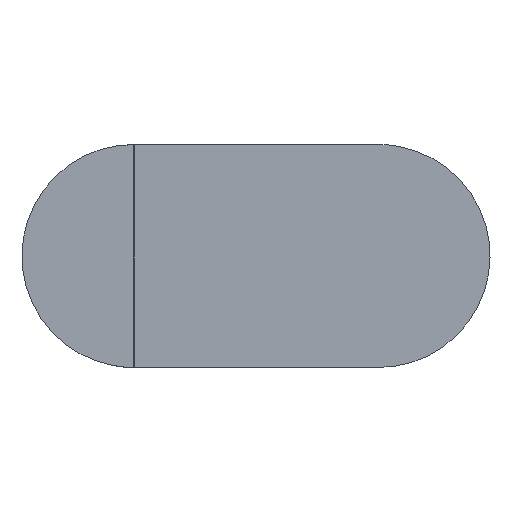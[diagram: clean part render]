
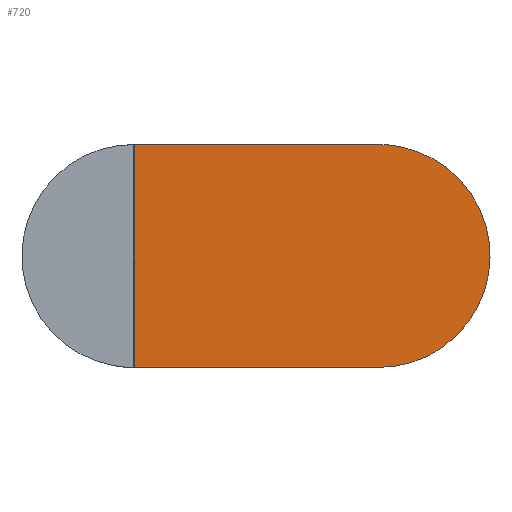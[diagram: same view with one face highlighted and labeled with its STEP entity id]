
A CAD part, top view. The second image highlights one B-rep face of the part: STEP entity #720.
In plain terms, the highlighted planar face has unit normal (0, 0, 1).
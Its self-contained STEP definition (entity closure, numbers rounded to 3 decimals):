
#720=ADVANCED_FACE('',(#1674),#13985,.T.);
#1674=FACE_OUTER_BOUND('',#2715,.T.);
#2715=EDGE_LOOP('',(#5186,#5187,#5188,#5189));
#5186=ORIENTED_EDGE('',*,*,#8268,.F.);
#5187=ORIENTED_EDGE('',*,*,#8547,.T.);
#5188=ORIENTED_EDGE('',*,*,#8272,.F.);
#5189=ORIENTED_EDGE('',*,*,#8274,.T.);
#8268=EDGE_CURVE('',#12288,#12289,#11149,.T.);
#8272=EDGE_CURVE('',#12292,#12293,#11153,.T.);
#8274=EDGE_CURVE('',#12292,#12289,#10041,.T.);
#8547=EDGE_CURVE('',#12288,#12293,#11267,.T.);
#10041=(
BOUNDED_CURVE()
B_SPLINE_CURVE(2,(#21578,#21579,#21580,#21581,#21582),.UNSPECIFIED.,.F.,
 .F.)
B_SPLINE_CURVE_WITH_KNOTS((3,2,3),(-1570.796,-785.398,0.),
 .UNSPECIFIED.)
CURVE()
GEOMETRIC_REPRESENTATION_ITEM()
RATIONAL_B_SPLINE_CURVE((1.,0.707,1.,0.707,1.))
REPRESENTATION_ITEM('')
);
#11149=B_SPLINE_CURVE_WITH_KNOTS('',1,(#21566,#21567),.UNSPECIFIED.,.F.,
 .F.,(2,2),(-296.556,800.444),.UNSPECIFIED.);
#11153=B_SPLINE_CURVE_WITH_KNOTS('',1,(#21574,#21575),.UNSPECIFIED.,.F.,
 .F.,(2,2),(-250.444,846.556),.UNSPECIFIED.);
#11267=B_SPLINE_CURVE_WITH_KNOTS('',1,(#22447,#22448),.UNSPECIFIED.,.F.,
 .F.,(2,2),(-438.471,561.529),.UNSPECIFIED.);
#12288=VERTEX_POINT('',#21258);
#12289=VERTEX_POINT('',#21259);
#12292=VERTEX_POINT('',#21262);
#12293=VERTEX_POINT('',#21263);
#13985=PLANE('',#14618);
#14618=AXIS2_PLACEMENT_3D('',#21061,#15426,$);
#15426=DIRECTION('',(0.,0.,1.));
#21061=CARTESIAN_POINT('',(-34.01,-500.01,740.));
#21258=CARTESIAN_POINT('',(-34.,500.,740.));
#21259=CARTESIAN_POINT('',(1063.,500.,740.));
#21262=CARTESIAN_POINT('',(1063.,-500.,740.));
#21263=CARTESIAN_POINT('',(-34.,-500.,740.));
#21566=CARTESIAN_POINT('',(-34.,500.,740.));
#21567=CARTESIAN_POINT('',(1063.,500.,740.));
#21574=CARTESIAN_POINT('',(1063.,-500.,740.));
#21575=CARTESIAN_POINT('',(-34.,-500.,740.));
#21578=CARTESIAN_POINT('',(1063.,-500.,740.));
#21579=CARTESIAN_POINT('',(1563.,-500.,740.));
#21580=CARTESIAN_POINT('',(1563.,0.,740.));
#21581=CARTESIAN_POINT('',(1563.,500.,740.));
#21582=CARTESIAN_POINT('',(1063.,500.,740.));
#22447=CARTESIAN_POINT('',(-34.,500.,740.));
#22448=CARTESIAN_POINT('',(-34.,-500.,740.));
